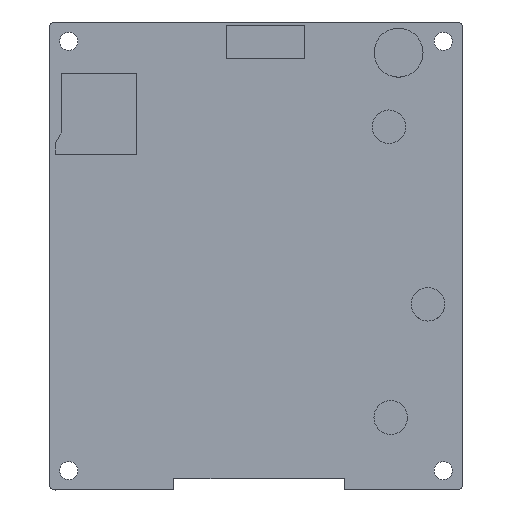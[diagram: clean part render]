
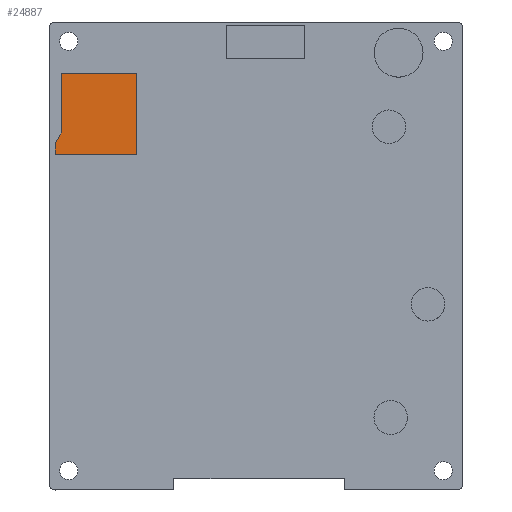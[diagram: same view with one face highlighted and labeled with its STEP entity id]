
A CAD part, top view. The second image highlights one B-rep face of the part: STEP entity #24887.
In plain terms, the highlighted planar face has unit normal (0, 0, 1).
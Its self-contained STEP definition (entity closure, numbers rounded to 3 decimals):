
#8983=DIRECTION('',(-1.,0.,0.));
#8984=VECTOR('',#8983,13.676);
#8985=CARTESIAN_POINT('',(-21.63,27.988,2.));
#8986=LINE('',#8985,#8984);
#8987=DIRECTION('',(0.,1.,0.));
#8988=VECTOR('',#8987,14.732);
#8989=CARTESIAN_POINT('',(-21.63,13.256,2.));
#8990=LINE('',#8989,#8988);
#8991=DIRECTION('',(1.,0.,0.));
#8992=VECTOR('',#8991,14.859);
#8993=CARTESIAN_POINT('',(-36.489,13.256,2.));
#8994=LINE('',#8993,#8992);
#8995=DIRECTION('',(0.,-1.,0.));
#8996=VECTOR('',#8995,1.905);
#8997=CARTESIAN_POINT('',(-36.489,15.161,2.));
#8998=LINE('',#8997,#8996);
#8999=DIRECTION('',(-0.48,-0.877,0.));
#9000=VECTOR('',#8999,2.462);
#9001=CARTESIAN_POINT('',(-35.306,17.32,2.));
#9002=LINE('',#9001,#9000);
#9003=DIRECTION('',(0.,-1.,0.));
#9004=VECTOR('',#9003,10.668);
#9005=CARTESIAN_POINT('',(-35.306,27.988,2.));
#9006=LINE('',#9005,#9004);
#12059=CARTESIAN_POINT('',(-21.63,27.988,2.));
#12060=CARTESIAN_POINT('',(-35.306,27.988,2.));
#12061=VERTEX_POINT('',#12059);
#12062=VERTEX_POINT('',#12060);
#12063=CARTESIAN_POINT('',(-35.306,17.32,2.));
#12064=VERTEX_POINT('',#12063);
#12065=CARTESIAN_POINT('',(-36.489,15.161,2.));
#12066=VERTEX_POINT('',#12065);
#12067=CARTESIAN_POINT('',(-36.489,13.256,2.));
#12068=VERTEX_POINT('',#12067);
#12069=CARTESIAN_POINT('',(-21.63,13.256,2.));
#12070=VERTEX_POINT('',#12069);
#24874=CARTESIAN_POINT('',(0.,0.,2.));
#24875=DIRECTION('',(0.,0.,1.));
#24876=DIRECTION('',(1.,0.,0.));
#24877=AXIS2_PLACEMENT_3D('',#24874,#24875,#24876);
#24878=PLANE('',#24877);
#24879=ORIENTED_EDGE('',*,*,#24798,.F.);
#24880=ORIENTED_EDGE('',*,*,#24813,.F.);
#24881=ORIENTED_EDGE('',*,*,#24827,.F.);
#24882=ORIENTED_EDGE('',*,*,#24841,.F.);
#24883=ORIENTED_EDGE('',*,*,#24855,.F.);
#24884=ORIENTED_EDGE('',*,*,#24868,.F.);
#24885=EDGE_LOOP('',(#24879,#24880,#24881,#24882,#24883,#24884));
#24886=FACE_OUTER_BOUND('',#24885,.F.);
#24798=EDGE_CURVE('',#12061,#12062,#8986,.T.);
#24813=EDGE_CURVE('',#12070,#12061,#8990,.T.);
#24827=EDGE_CURVE('',#12068,#12070,#8994,.T.);
#24841=EDGE_CURVE('',#12066,#12068,#8998,.T.);
#24855=EDGE_CURVE('',#12064,#12066,#9002,.T.);
#24868=EDGE_CURVE('',#12062,#12064,#9006,.T.);
#24887=ADVANCED_FACE('',(#24886),#24878,.T.);
